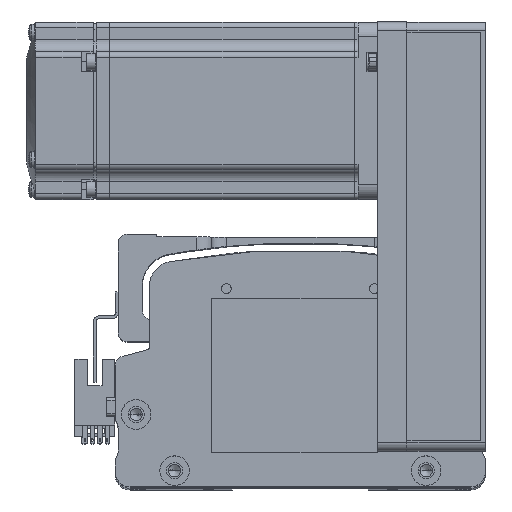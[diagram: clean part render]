
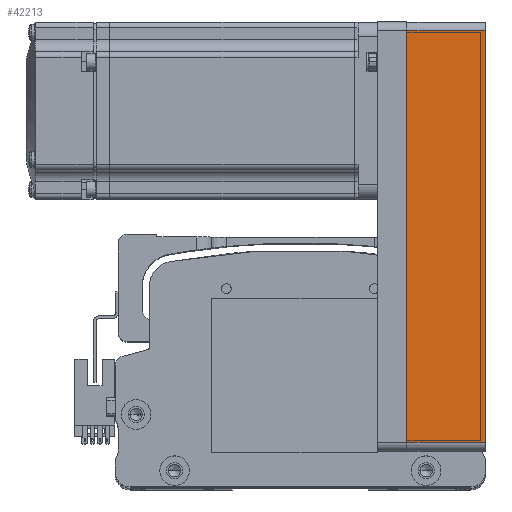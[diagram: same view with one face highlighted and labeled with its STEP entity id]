
A CAD part, top view. The second image highlights one B-rep face of the part: STEP entity #42213.
In plain terms, the highlighted planar face has unit normal (0, 0, 1) as drawn and (0, 1, 0) by its records, which use the part's own axes.
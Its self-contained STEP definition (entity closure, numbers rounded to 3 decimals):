
#2823 = VERTEX_POINT ( 'NONE', #51354 ) ;
#5947 = FACE_OUTER_BOUND ( 'NONE', #33989, .T. ) ;
#8279 = CARTESIAN_POINT ( 'NONE',  ( 69.5, 30., 26.5 ) ) ;
#9907 = PLANE ( 'NONE',  #42836 ) ;
#10251 = DIRECTION ( 'NONE',  ( -1., 0., 0. ) ) ;
#10873 = EDGE_CURVE ( 'NONE', #54933, #62380, #46517, .T. ) ;
#12309 = CARTESIAN_POINT ( 'NONE',  ( 69.5, 30., 0. ) ) ;
#12461 = CARTESIAN_POINT ( 'NONE',  ( -69.5, 30., 26.5 ) ) ;
#14910 = LINE ( 'NONE', #47209, #62008 ) ;
#16590 = DIRECTION ( 'NONE',  ( 0., -1., 0. ) ) ;
#17509 = ORIENTED_EDGE ( 'NONE', *, *, #27832, .F. ) ;
#19706 = ORIENTED_EDGE ( 'NONE', *, *, #64510, .T. ) ;
#20868 = EDGE_CURVE ( 'NONE', #62380, #66168, #62479, .T. ) ;
#22347 = CARTESIAN_POINT ( 'NONE',  ( 72.5, 30., 0. ) ) ;
#27530 = VECTOR ( 'NONE', #50983, 1000. ) ;
#27832 = EDGE_CURVE ( 'NONE', #2823, #66168, #14910, .T. ) ;
#30211 = VECTOR ( 'NONE', #10251, 1000. ) ;
#33989 = EDGE_LOOP ( 'NONE', ( #70876, #41689, #17509, #19706 ) ) ;
#37151 = CARTESIAN_POINT ( 'NONE',  ( -69.5, 30., 0. ) ) ;
#41689 = ORIENTED_EDGE ( 'NONE', *, *, #20868, .T. ) ;
#42213 = ADVANCED_FACE ( 'NONE', ( #5947 ), #9907, .F. ) ;
#42836 = AXIS2_PLACEMENT_3D ( 'NONE', #53397, #16590, #59597 ) ;
#45295 = CARTESIAN_POINT ( 'NONE',  ( -69.5, 30., 26.5 ) ) ;
#46080 = VECTOR ( 'NONE', #73982, 1000. ) ;
#46517 = LINE ( 'NONE', #22347, #30211 ) ;
#47209 = CARTESIAN_POINT ( 'NONE',  ( 72.5, 30., 26.5 ) ) ;
#50983 = DIRECTION ( 'NONE',  ( 0., 0., -1. ) ) ;
#51354 = CARTESIAN_POINT ( 'NONE',  ( 69.5, 30., 26.5 ) ) ;
#53397 = CARTESIAN_POINT ( 'NONE',  ( 72.5, 30., 26.5 ) ) ;
#54933 = VERTEX_POINT ( 'NONE', #12309 ) ;
#59597 = DIRECTION ( 'NONE',  ( 1., 0., 0. ) ) ;
#62008 = VECTOR ( 'NONE', #78104, 1000. ) ;
#62380 = VERTEX_POINT ( 'NONE', #37151 ) ;
#62479 = LINE ( 'NONE', #12461, #46080 ) ;
#64510 = EDGE_CURVE ( 'NONE', #2823, #54933, #76511, .T. ) ;
#66168 = VERTEX_POINT ( 'NONE', #45295 ) ;
#70876 = ORIENTED_EDGE ( 'NONE', *, *, #10873, .T. ) ;
#73982 = DIRECTION ( 'NONE',  ( 0., 0., 1. ) ) ;
#76511 = LINE ( 'NONE', #8279, #27530 ) ;
#78104 = DIRECTION ( 'NONE',  ( -1., 0., 0. ) ) ;
